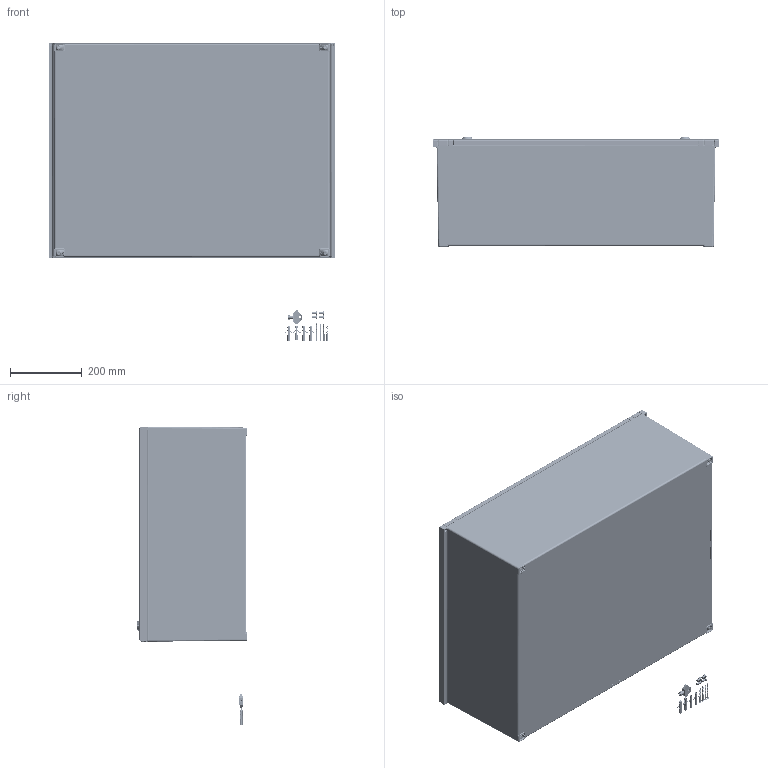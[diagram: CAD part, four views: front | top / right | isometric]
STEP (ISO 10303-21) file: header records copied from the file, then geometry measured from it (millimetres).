
FILE_DESCRIPTION(/* description */ (''),/* implementation_level */ '2;1');
FILE_NAME(/* name */ 'C:\Users\ahermoni\Desktop\42186300_PS 863.stp',/* time_stamp */ '2019-09-12T13:17:59+02:00',/* author */ ('ahermoni'),/* organization */ ('Fa. Bopla'),/* preprocessor_version */ 'ST-DEVELOPER v17.2',/* originating_system */ 'Autodesk Inventor 2019',/* authorisation */ '');
FILE_SCHEMA (('AUTOMOTIVE_DESIGN { 1 0 10303 214 3 1 1 }'));
Products named in the file (17): 42186300 PS 863; Unterteil 1; Oberteil; Tür 1; Scheibe; Schloss; Mutter; Halter; Schraube4; Rahmen; Zubehör; Schraube2; Dübel; Schlüssel; Schraube1; Achse; Gewindeeinsatz M6x8
Assembly tree (37 placements, depth 3):
  42186300 PS 863
    Unterteil 1
    Oberteil
      Tür 1
      Scheibe  x2
      Schloss  x2
      Mutter  x2
      Halter  x2
      Schraube4  x2
      Rahmen
    Zubehör
      Schraube2  x4
      Dübel  x4
      Schlüssel
      Schraube1  x4
    Achse  x2
    Gewindeeinsatz M6x8  x7
Bounding box: 800 x 307 x 833.24 mm (x, y, z)
Volume: 6541882.1 mm3; surface area: 4063563.6 mm2
Topology: 43 solids, 58 shells, 9119 faces, 22490 edges, 13811 vertices
Faces by surface type: cylinder 3370, bspline 2330, plane 2105, cone 744, sphere 347, torus 223
Full cylindrical faces by diameter (mm): 2 x2, 2.62 x56, 3 x30, 3.7 x2, 4 x7, 4.2 x4, 4.5 x2, 5 x11, 5.4 x4, 6 x14, 6.5 x4, 6.55 x6, 7 x4, 7.3 x18, 8 x7, 8.5 x2, 9 x1, 10 x12, 10.2 x2, 12 x7, 14 x2, 14.2 x2, 18.5 x2, 19.8 x2, 21 x2, 22 x4, 23 x2, 27 x2, 29 x4
Entity records: 426379 total; most frequent: CARTESIAN_POINT 259431, ORIENTED_EDGE 35225, DIRECTION 34115, EDGE_CURVE 17618, AXIS2_PLACEMENT_3D 13433, VERTEX_POINT 10987, EDGE_LOOP 8397, FACE_OUTER_BOUND 7510
